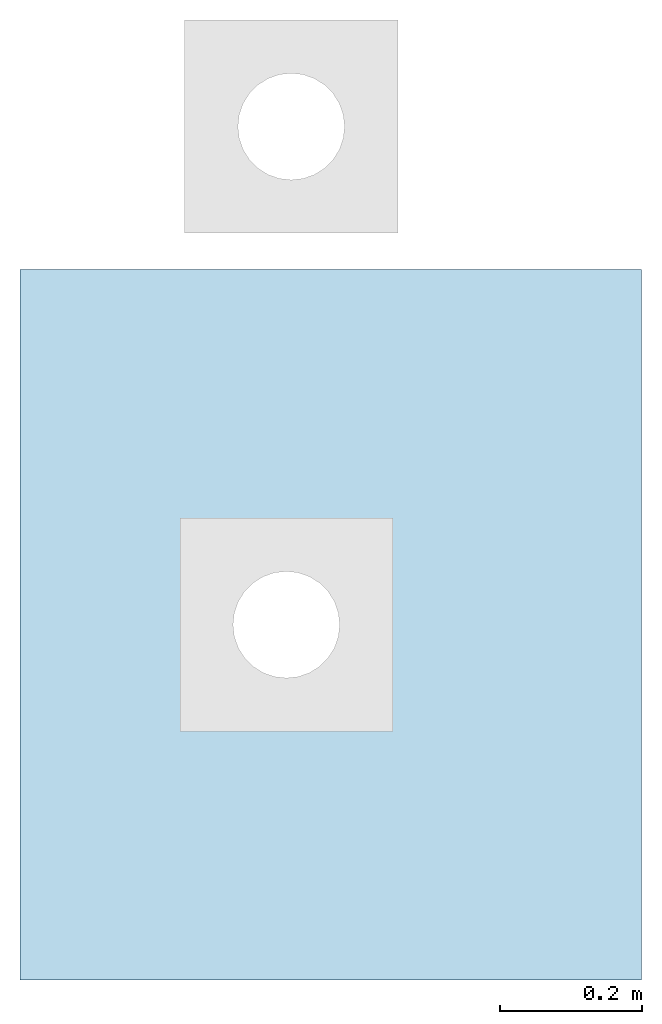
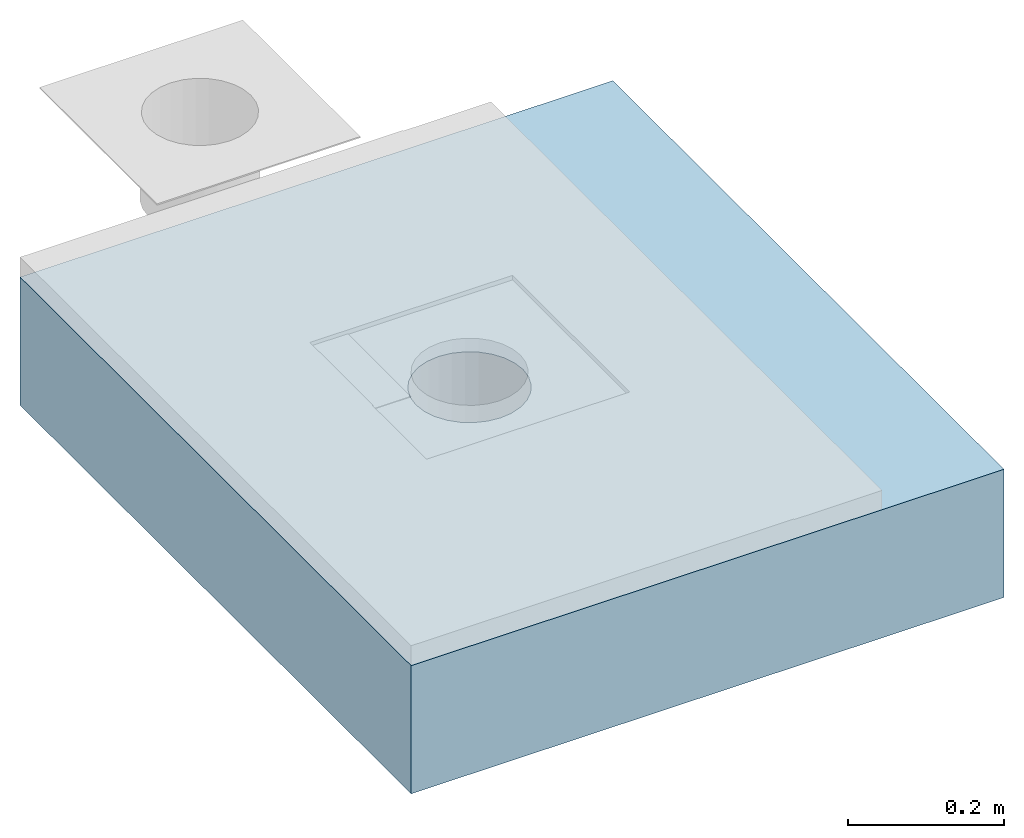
# One storey, part 1 of 3: 1 slab, 1 opening.
"""IFC2X3 building model written with IfcOpenShell, lengths in metres."""

from ifc_helpers import new_model, entity, si_unit, converted_unit, derived_unit, direction, frame, frame_2d, origin, origin_2d_with_axis, place, context, subcontext, project, spatial, rectangle, circle, extrude, material, layer, layer_set, layer_usage, type_object, element, save


model = new_model("IFC2X3")

# Units and contexts
model_context = context("Model", 3, precision=1e-05, world=origin(), true_north=direction((6.123031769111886e-17, 1.0)))
body_context = subcontext(model_context, "Body", "Model", "MODEL_VIEW")
ifc_project = project(units=[si_unit("LENGTHUNIT", "METRE"), si_unit("AREAUNIT", "SQUARE_METRE"), si_unit("VOLUMEUNIT", "CUBIC_METRE"), converted_unit("PLANEANGLEUNIT", "DEGREE", entity("IfcRatioMeasure", 0.017453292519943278), si_unit("PLANEANGLEUNIT", "RADIAN"), dimensions=[0, 0, 0, 0, 0, 0, 0]), si_unit("MASSUNIT", "GRAM", prefix="KILO"), derived_unit("MASSDENSITYUNIT", [(si_unit("MASSUNIT", "GRAM", prefix="KILO"), 1), (si_unit("LENGTHUNIT", "METRE"), -3)]), derived_unit("IONCONCENTRATIONUNIT", [(si_unit("MASSUNIT", "GRAM", prefix="KILO"), 1), (si_unit("LENGTHUNIT", "METRE"), -3)]), derived_unit("MOMENTOFINERTIAUNIT", [(si_unit("LENGTHUNIT", "METRE"), 4)]), si_unit("TIMEUNIT", "SECOND"), si_unit("FREQUENCYUNIT", "HERTZ"), si_unit("THERMODYNAMICTEMPERATUREUNIT", "DEGREE_CELSIUS"), derived_unit("THERMALTRANSMITTANCEUNIT", [(si_unit("MASSUNIT", "GRAM", prefix="KILO"), 1), (si_unit("THERMODYNAMICTEMPERATUREUNIT", "KELVIN"), -1), (si_unit("TIMEUNIT", "SECOND"), -3)]), derived_unit("THERMALCONDUCTANCEUNIT", [(si_unit("MASSUNIT", "GRAM", prefix="KILO"), 1), (si_unit("THERMODYNAMICTEMPERATUREUNIT", "KELVIN"), -1), (si_unit("TIMEUNIT", "SECOND"), -3), (si_unit("LENGTHUNIT", "METRE"), 1)]), derived_unit("VOLUMETRICFLOWRATEUNIT", [(si_unit("LENGTHUNIT", "METRE"), 3), (si_unit("TIMEUNIT", "SECOND"), -1)]), derived_unit("MASSFLOWRATEUNIT", [(si_unit("MASSUNIT", "GRAM", prefix="KILO"), 1), (si_unit("TIMEUNIT", "SECOND"), -1)]), derived_unit("ROTATIONALFREQUENCYUNIT", [(si_unit("TIMEUNIT", "SECOND"), -1)]), si_unit("ELECTRICCURRENTUNIT", "AMPERE"), si_unit("ELECTRICVOLTAGEUNIT", "VOLT"), si_unit("POWERUNIT", "WATT"), si_unit("FORCEUNIT", "NEWTON", prefix="KILO"), si_unit("ILLUMINANCEUNIT", "LUX"), si_unit("LUMINOUSFLUXUNIT", "LUMEN"), si_unit("LUMINOUSINTENSITYUNIT", "CANDELA"), derived_unit("USERDEFINED", [(si_unit("MASSUNIT", "GRAM", prefix="KILO"), -1), (si_unit("LENGTHUNIT", "METRE"), -2), (si_unit("TIMEUNIT", "SECOND"), 3), (si_unit("LUMINOUSFLUXUNIT", "LUMEN"), 1)]), derived_unit("USERDEFINED", [(si_unit("MASSUNIT", "GRAM", prefix="KILO"), 1), (si_unit("TIMEUNIT", "SECOND"), -3), (si_unit("LENGTHUNIT", "METRE"), 3), (si_unit("ELECTRICCURRENTUNIT", "AMPERE"), -2)]), derived_unit("SOUNDPOWERUNIT", [(si_unit("MASSUNIT", "GRAM", prefix="KILO"), 1), (si_unit("TIMEUNIT", "SECOND"), -3), (si_unit("LENGTHUNIT", "METRE"), 2)]), derived_unit("SOUNDPRESSUREUNIT", [(si_unit("MASSUNIT", "GRAM", prefix="KILO"), 1), (si_unit("LENGTHUNIT", "METRE"), -1), (si_unit("TIMEUNIT", "SECOND"), -2)]), derived_unit("LINEARVELOCITYUNIT", [(si_unit("LENGTHUNIT", "METRE"), 1), (si_unit("TIMEUNIT", "SECOND"), -1)]), si_unit("PRESSUREUNIT", "PASCAL"), derived_unit("USERDEFINED", [(si_unit("MASSUNIT", "GRAM", prefix="KILO"), 1), (si_unit("LENGTHUNIT", "METRE"), -2), (si_unit("TIMEUNIT", "SECOND"), -2)]), derived_unit("LINEARFORCEUNIT", [(si_unit("MASSUNIT", "GRAM", prefix="KILO"), 1), (si_unit("TIMEUNIT", "SECOND"), -2)]), derived_unit("PLANARFORCEUNIT", [(si_unit("MASSUNIT", "GRAM", prefix="KILO"), 1), (si_unit("LENGTHUNIT", "METRE"), -1), (si_unit("TIMEUNIT", "SECOND"), -2)]), derived_unit("SPECIFICHEATCAPACITYUNIT", [(si_unit("THERMODYNAMICTEMPERATUREUNIT", "KELVIN"), -1), (si_unit("LENGTHUNIT", "METRE"), 2), (si_unit("TIMEUNIT", "SECOND"), -2)]), derived_unit("HEATINGVALUEUNIT", [(si_unit("LENGTHUNIT", "METRE"), 2), (si_unit("TIMEUNIT", "SECOND"), -2)]), derived_unit("VAPORPERMEABILITYUNIT", [(si_unit("LENGTHUNIT", "METRE"), -1), (si_unit("TIMEUNIT", "SECOND"), 1)]), derived_unit("DYNAMICVISCOSITYUNIT", [(si_unit("MASSUNIT", "GRAM", prefix="KILO"), 1), (si_unit("TIMEUNIT", "SECOND"), -1), (si_unit("LENGTHUNIT", "METRE"), -1)]), derived_unit("THERMALEXPANSIONCOEFFICIENTUNIT", [(si_unit("THERMODYNAMICTEMPERATUREUNIT", "KELVIN"), -1)]), derived_unit("MODULUSOFELASTICITYUNIT", [(si_unit("MASSUNIT", "GRAM", prefix="KILO"), 1), (si_unit("LENGTHUNIT", "METRE"), -1), (si_unit("TIMEUNIT", "SECOND"), -2)]), derived_unit("ISOTHERMALMOISTURECAPACITYUNIT", [(si_unit("LENGTHUNIT", "METRE"), 3), (si_unit("MASSUNIT", "GRAM", prefix="KILO"), -1)]), derived_unit("MOISTUREDIFFUSIVITYUNIT", [(si_unit("TIMEUNIT", "SECOND"), -1), (si_unit("LENGTHUNIT", "METRE"), 2)])], contexts=[model_context])

# Site, building, storey
site_placement = place(None, origin())
site = spatial("IfcSite", under=ifc_project, at=site_placement, Name="Default", CompositionType="ELEMENT")
building_placement = place(site_placement, origin())
building = spatial("IfcBuilding", under=site, at=building_placement, CompositionType="ELEMENT")
storey_placement = place(building_placement, frame((0.0, 0.0, -0.0025237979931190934)))
storey = spatial("IfcBuildingStorey", under=building, at=storey_placement, Name="ARQ Térreo", CompositionType="ELEMENT", Elevation=-0.0025237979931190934)

# Slab, opening
ifc_material = material(Name="#concreto")
ifc_layer = layer(ifc_material, 0.2)
ifc_layer_set = layer_set([ifc_layer], Name="Piso:Piso:LAJE CONCRETO")
ifc_layer_usage = layer_usage(ifc_layer_set, "AXIS3", "POSITIVE", 0.0)
slab_type = type_object("IfcSlabType", Name="Piso:Piso:LAJE CONCRETO", PredefinedType="FLOOR", material=ifc_layer_set)
slab_placement = place(storey_placement, frame((0.5478103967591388, -1.7380570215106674, -0.20000000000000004)))
slab = element("IfcSlab", 1, at=slab_placement, inside=storey, type_object=slab_type, material=ifc_layer_usage, Name="Piso:Piso:LAJE CONCRETO", ObjectType="Piso:Piso:LAJE CONCRETO", PredefinedType="FLOOR", context=body_context, shape_type="SweptSolid", body=[
    extrude(rectangle(XDim=0.8750000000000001, YDim=0.9999999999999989, at=origin_2d_with_axis()), frame((0.43750000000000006, 0.4999999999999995, 0.2), z_axis=(0.0, 0.0, -1.0), x_axis=(-1.0, 0.0, 0.0)), (0.0, 0.0, 1.0), 0.2),
])
opening_placement = place(slab_placement, origin())
element("IfcOpeningElement", 2, at=opening_placement, cuts=slab, Name="Piso:Piso:LAJE CONCRETO", ObjectType="Opening", context=body_context, shape_type="SweptSolid", body=[
    extrude(circle(Radius=0.07899999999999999, at=frame_2d((0.0, 5.414335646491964e-16), x_axis=(1.0, 0.0))), frame((0.3748540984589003, 0.5000658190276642, 0.2), z_axis=(0.0, 0.0, -1.0), x_axis=(1.0, 0.0, 0.0)), (0.0, 0.0, 1.0), 0.2),
])

save(model, "model.ifc")
